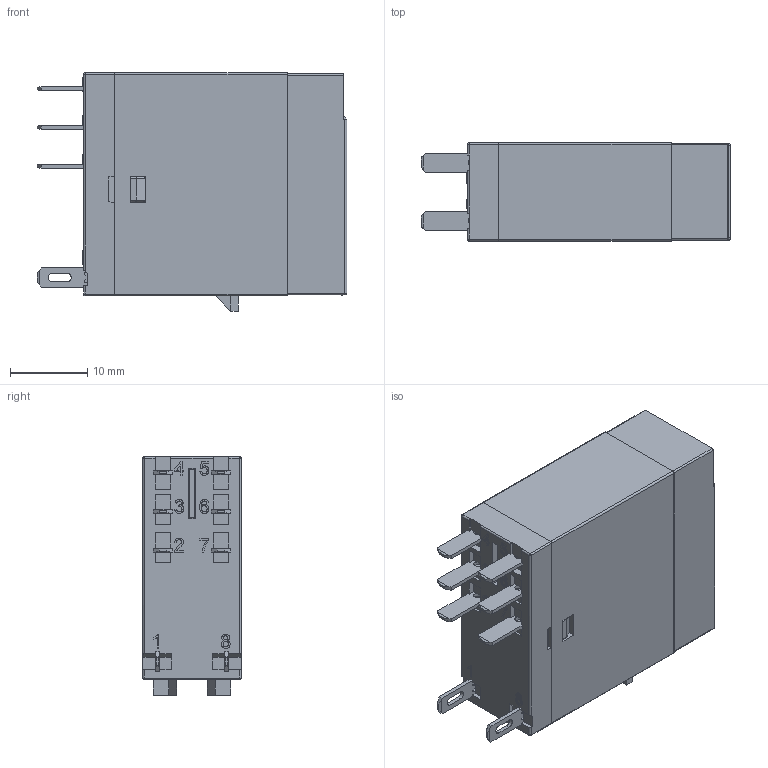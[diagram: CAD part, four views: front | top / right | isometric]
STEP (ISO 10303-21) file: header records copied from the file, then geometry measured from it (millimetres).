
FILE_DESCRIPTION (( 'STEP AP214' ), '1' );
FILE_NAME ('RN09-110AC.STEP', '2026-03-23T10:26:45', ( '' ), ( '' ), 'SwSTEP 2.0', 'SolidWorks 2025', '' );
FILE_SCHEMA (( 'AUTOMOTIVE_DESIGN' ));
Length unit declared in the file: millimetre
Products named in the file (1): RN09-110AC
Bounding box: 40 x 12.7 x 30.8 mm (x, y, z)
Volume: 4306.4 mm3; surface area: 12349.4 mm2
Topology: 17 solids, 21 shells, 2099 faces, 6722 edges, 4818 vertices
Faces by surface type: plane 1543, cylinder 398, bspline 111, sphere 23, cone 16, torus 8
Entity records: 87876 total; most frequent: CARTESIAN_POINT 27740, ORIENTED_EDGE 13412, DIRECTION 10561, EDGE_CURVE 6706, LINE 5191, VECTOR 5191, VERTEX_POINT 4818, AXIS2_PLACEMENT_3D 2685
